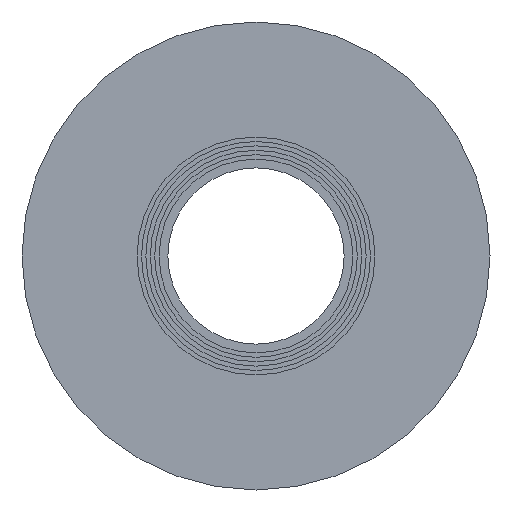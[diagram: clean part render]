
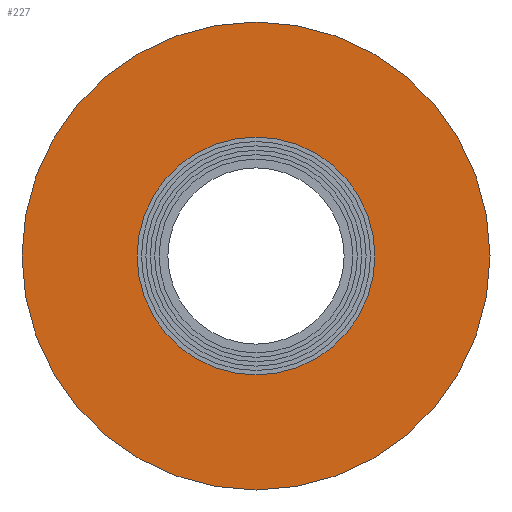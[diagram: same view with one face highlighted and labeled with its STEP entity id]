
A CAD part, left-side view. The second image highlights one B-rep face of the part: STEP entity #227.
In plain terms, the highlighted planar face has unit normal (-1, 0, 0).
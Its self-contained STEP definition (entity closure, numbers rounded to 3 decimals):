
#19=PLANE('',#265);
#45=FACE_BOUND('',#98,.T.);
#65=FACE_OUTER_BOUND('',#97,.T.);
#97=EDGE_LOOP('',(#197));
#98=EDGE_LOOP('',(#198));
#128=CIRCLE('',#263,17.28);
#129=CIRCLE('',#266,34.);
#148=VERTEX_POINT('',#401);
#149=VERTEX_POINT('',#405);
#168=EDGE_CURVE('',#148,#148,#128,.T.);
#169=EDGE_CURVE('',#149,#149,#129,.T.);
#197=ORIENTED_EDGE('',*,*,#169,.F.);
#198=ORIENTED_EDGE('',*,*,#168,.T.);
#227=ADVANCED_FACE('',(#65,#45),#19,.T.);
#263=AXIS2_PLACEMENT_3D('',#402,#331,#332);
#265=AXIS2_PLACEMENT_3D('',#404,#335,#336);
#266=AXIS2_PLACEMENT_3D('',#406,#337,#338);
#331=DIRECTION('center_axis',(1.,0.,0.));
#332=DIRECTION('ref_axis',(0.,0.,-1.));
#335=DIRECTION('center_axis',(-1.,0.,0.));
#336=DIRECTION('ref_axis',(0.,0.,1.));
#337=DIRECTION('center_axis',(1.,0.,0.));
#338=DIRECTION('ref_axis',(0.,0.,-1.));
#401=CARTESIAN_POINT('',(-85.,0.,17.28));
#402=CARTESIAN_POINT('Origin',(-85.,0.,0.));
#404=CARTESIAN_POINT('Origin',(-85.,34.,0.));
#405=CARTESIAN_POINT('',(-85.,34.,0.));
#406=CARTESIAN_POINT('Origin',(-85.,0.,0.));
